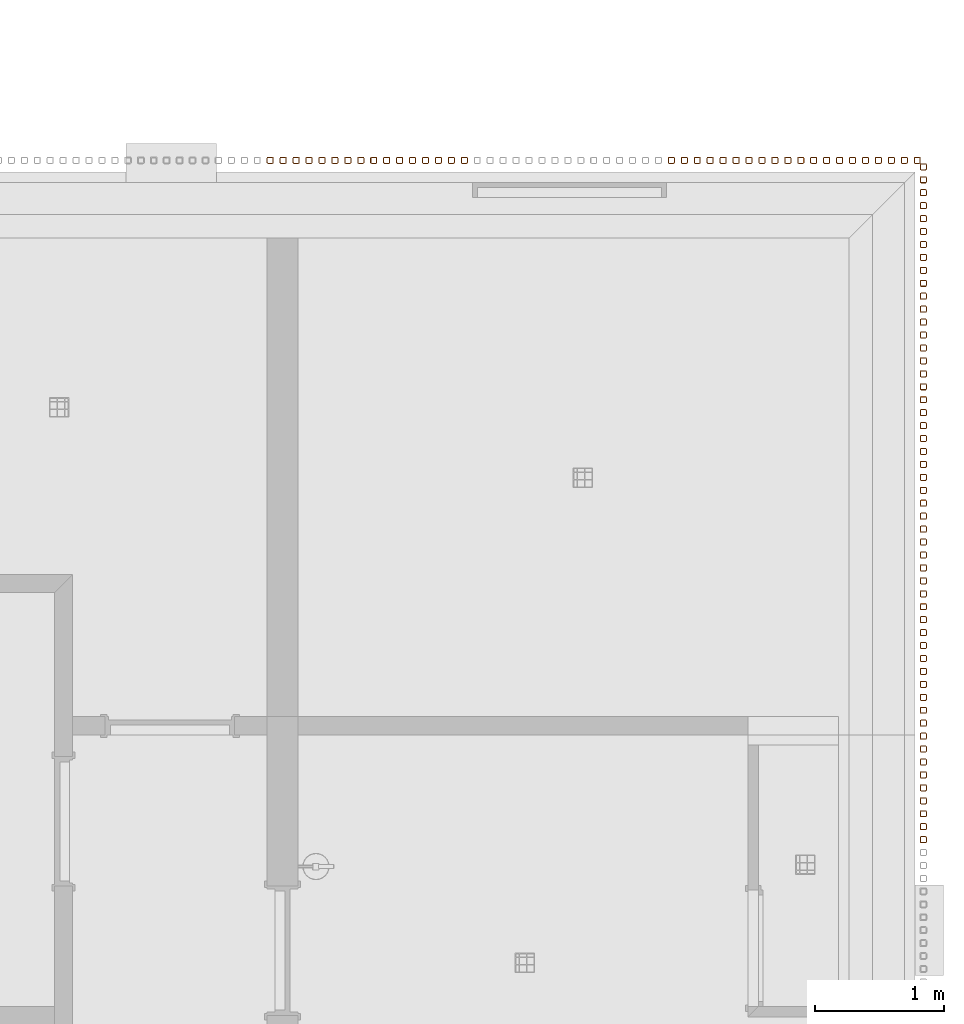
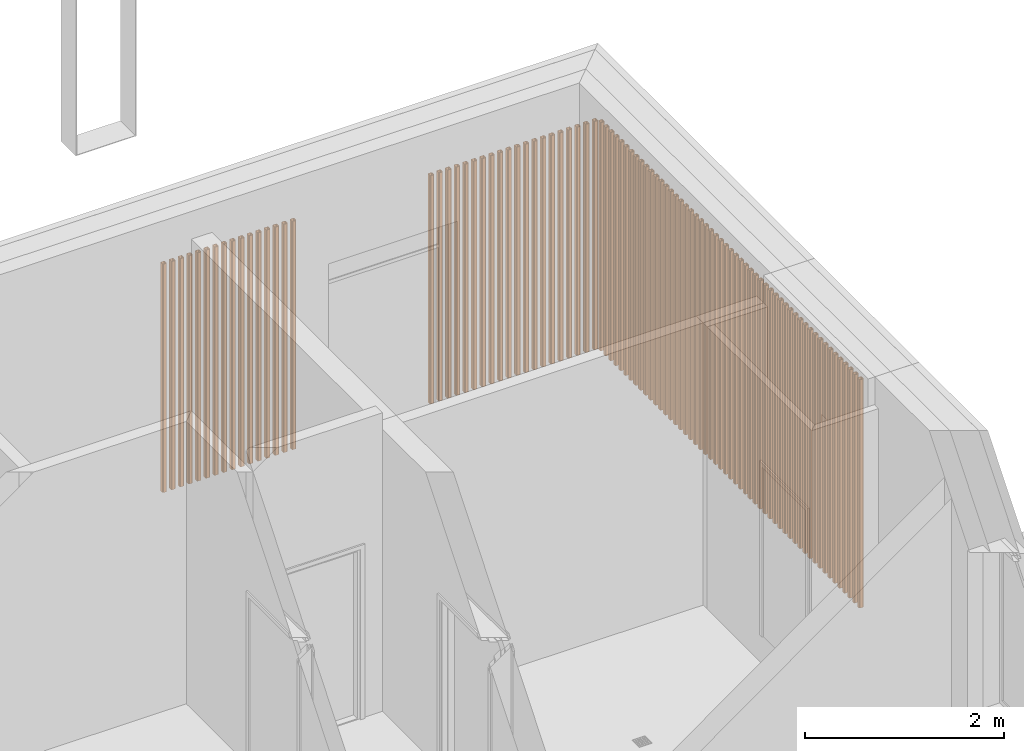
# One storey, part 82 of 112: 89 proxies.
"""IFC2X3 building model written with IfcOpenShell, lengths in millimetres."""

from ifc_helpers import new_model, entity, si_unit, converted_unit, derived_unit, money_unit, direction, frame, origin_with_axes, place, context, subcontext, project, spatial, faceted_brep, source, transform, mapped, material, type_object, element, save


model = new_model("IFC2X3")

# Units and contexts
model_context = context("Model", 3, precision=0.01, world=origin_with_axes(), true_north=direction((0.0, 1.0)))
body_context = subcontext(model_context, "Body", "Model", "MODEL_VIEW")
ifc_project = project(units=[si_unit("LENGTHUNIT", "METRE", prefix="MILLI"), si_unit("AREAUNIT", "SQUARE_METRE"), si_unit("VOLUMEUNIT", "CUBIC_METRE"), converted_unit("PLANEANGLEUNIT", "DEGREE", entity("IfcPlaneAngleMeasure", 0.0174532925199), si_unit("PLANEANGLEUNIT", "RADIAN"), dimensions=[0, 0, 0, 0, 0, 0, 0]), si_unit("SOLIDANGLEUNIT", "STERADIAN"), money_unit("EUR"), converted_unit("TIMEUNIT", "Year", entity("IfcTimeMeasure", 31556926.0), si_unit("TIMEUNIT", "SECOND"), dimensions=[0, 0, 1, 0, 0, 0, 0]), si_unit("MASSUNIT", "GRAM", prefix="KILO"), si_unit("THERMODYNAMICTEMPERATUREUNIT", "DEGREE_CELSIUS"), si_unit("LUMINOUSINTENSITYUNIT", "LUMEN"), si_unit("ENERGYUNIT", "JOULE", prefix="MEGA"), derived_unit("THERMALCONDUCTANCEUNIT", [(si_unit("POWERUNIT", "WATT"), 1), (si_unit("LENGTHUNIT", "METRE"), -1), (si_unit("THERMODYNAMICTEMPERATUREUNIT", "KELVIN"), -1)]), derived_unit("SPECIFICHEATCAPACITYUNIT", [(si_unit("ENERGYUNIT", "JOULE"), 1), (si_unit("MASSUNIT", "GRAM", prefix="KILO"), -1), (si_unit("THERMODYNAMICTEMPERATUREUNIT", "KELVIN"), -1)]), derived_unit("MASSDENSITYUNIT", [(si_unit("MASSUNIT", "GRAM", prefix="KILO"), 1), (si_unit("VOLUMEUNIT", "CUBIC_METRE"), -1)])], contexts=[model_context])

# Site, building, storey
site_placement = place(None, origin_with_axes())
site = spatial("IfcSite", under=ifc_project, at=site_placement, Name="Politse- ja Piirivalveameti ning Päästeameti ühishoone", CompositionType="ELEMENT")
building_placement = place(site_placement, origin_with_axes())
building = spatial("IfcBuilding", under=site, at=building_placement, Name="Politse- ja Piirivalveameti ning Päästeameti ühishoone", CompositionType="ELEMENT")
storey_placement = place(building_placement, origin_with_axes())
storey = spatial("IfcBuildingStorey", under=building, at=storey_placement, Name="Esimene korrus", CompositionType="ELEMENT", Elevation=0.0)

# Proxies
ifc_material = material(Name="ET-05_Teras")
building_element_proxy_type = type_object("IfcBuildingElementProxyType", Name="SHS Cold-Formed Column 23", PredefinedType="NOTDEFINED")
shared_shape_1 = source(origin_with_axes(), body_context, "Body", "Brep", [
    faceted_brep([(-17.0, -25.0, 0.0), (17.0, -25.0, 0.0), (17.0, -25.0, 2800.0), (-17.0, -25.0, 2800.0), (-22.6568542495, -22.6568542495, 0.0), (-25.0, -17.0, 0.0), (-25.0, 17.0, 0.0), (-22.6568542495, 22.6568542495, 0.0), (-17.0, 25.0, 0.0), (17.0, 25.0, 0.0), (22.6568542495, 22.6568542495, 0.0), (25.0, 17.0, 0.0), (25.0, -17.0, 0.0), (22.6568542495, -22.6568542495, 0.0), (-17.0, -21.0, 0.0), (17.0, -21.0, 0.0), (19.8284271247, -19.8284271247, 0.0), (21.0, -17.0, 0.0), (21.0, 17.0, 0.0), (19.8284271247, 19.8284271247, 0.0), (17.0, 21.0, 0.0), (-17.0, 21.0, 0.0), (-19.8284271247, 19.8284271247, 0.0), (-21.0, 17.0, 0.0), (-21.0, -17.0, 0.0), (-19.8284271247, -19.8284271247, 0.0), (22.6568542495, -22.6568542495, 2800.0), (25.0, -17.0, 2800.0), (25.0, 17.0, 2800.0), (22.6568542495, 22.6568542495, 2800.0), (17.0, 25.0, 2800.0), (-17.0, 25.0, 2800.0), (-22.6568542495, 22.6568542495, 2800.0), (-25.0, 17.0, 2800.0), (-25.0, -17.0, 2800.0), (-22.6568542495, -22.6568542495, 2800.0), (-17.0, -21.0, 2800.0), (-19.8284271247, -19.8284271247, 2800.0), (-21.0, -17.0, 2800.0), (-21.0, 17.0, 2800.0), (-19.8284271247, 19.8284271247, 2800.0), (-17.0, 21.0, 2800.0), (17.0, 21.0, 2800.0), (19.8284271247, 19.8284271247, 2800.0), (21.0, 17.0, 2800.0), (21.0, -17.0, 2800.0), (19.8284271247, -19.8284271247, 2800.0), (17.0, -21.0, 2800.0)], [[[0, 1, 2, 3]], [[0, 4, 5, 6, 7, 8, 9, 10, 11, 12, 13, 1], [14, 15, 16, 17, 18, 19, 20, 21, 22, 23, 24, 25]], [[1, 13, 26, 2]], [[3, 2, 26, 27, 28, 29, 30, 31, 32, 33, 34, 35], [36, 37, 38, 39, 40, 41, 42, 43, 44, 45, 46, 47]], [[4, 0, 3, 35]], [[5, 4, 35, 34]], [[6, 5, 34, 33]], [[7, 6, 33, 32]], [[8, 7, 32, 31]], [[9, 8, 31, 30]], [[10, 9, 30, 29]], [[11, 10, 29, 28]], [[12, 11, 28, 27]], [[13, 12, 27, 26]], [[15, 14, 36, 47]], [[16, 15, 47, 46]], [[17, 16, 46, 45]], [[18, 17, 45, 44]], [[19, 18, 44, 43]], [[20, 19, 43, 42]], [[21, 20, 42, 41]], [[22, 21, 41, 40]], [[23, 22, 40, 39]], [[24, 23, 39, 38]], [[25, 24, 38, 37]], [[14, 25, 37, 36]]]),
])
for number, where, z_axis, x_axis in (
    (1, (70235.2095212, 32850.0702441, 0.0), (0.0, 0.0, 1.0), (1.0, 0.0, 0.0)),
    (2, (70235.2095212, 32950.0702441, 0.0), (0.0, 0.0, 1.0), (1.0, 0.0, 0.0)),
    (3, (70235.2095212, 33050.0702441, 0.0), (0.0, 0.0, 1.0), (1.0, 0.0, 0.0)),
    (4, (70235.2095212, 33150.0702441, 0.0), (0.0, 0.0, 1.0), (1.0, 0.0, 0.0)),
    (5, (70235.2095212, 33250.0702441, 0.0), (0.0, 0.0, 1.0), (1.0, 0.0, 0.0)),
    (6, (70235.2095212, 33350.0702441, 0.0), (0.0, 0.0, 1.0), (1.0, 0.0, 0.0)),
    (7, (70235.2095212, 33450.0702441, 0.0), (0.0, 0.0, 1.0), (1.0, 0.0, 0.0)),
    (8, (70235.2095212, 33550.0702441, 0.0), (0.0, 0.0, 1.0), (1.0, 0.0, 0.0)),
    (9, (70235.2095212, 33650.0702441, 0.0), (0.0, 0.0, 1.0), (1.0, 0.0, 0.0)),
    (10, (70235.2095212, 33750.0702441, 0.0), (0.0, 0.0, 1.0), (1.0, 0.0, 0.0)),
    (11, (70235.2095212, 33850.0702441, 0.0), (0.0, 0.0, 1.0), (1.0, 0.0, 0.0)),
    (12, (70235.2095212, 33950.0702441, 0.0), (0.0, 0.0, 1.0), (1.0, 0.0, 0.0)),
    (13, (70235.2095212, 34050.0702441, 0.0), (0.0, 0.0, 1.0), (1.0, 0.0, 0.0)),
    (14, (70235.2095212, 34150.0702441, 0.0), (0.0, 0.0, 1.0), (1.0, 0.0, 0.0)),
    (15, (70235.2095212, 34250.0702441, 0.0), (0.0, 0.0, 1.0), (1.0, 0.0, 0.0)),
    (16, (70235.2095212, 34350.0702441, 0.0), (0.0, 0.0, 1.0), (1.0, 0.0, 0.0)),
    (17, (70235.2095212, 34450.0702441, 0.0), (0.0, 0.0, 1.0), (1.0, 0.0, 0.0)),
    (18, (70235.2095212, 34550.0702441, 0.0), (0.0, 0.0, 1.0), (1.0, 0.0, 0.0)),
    (19, (70235.2095212, 34650.0702441, 0.0), (0.0, 0.0, 1.0), (1.0, 0.0, 0.0)),
    (20, (70235.2095212, 34750.0702441, 0.0), (0.0, 0.0, 1.0), (1.0, 0.0, 0.0)),
    (21, (70235.2095212, 34850.0702441, 0.0), (0.0, 0.0, 1.0), (1.0, 0.0, 0.0)),
    (22, (70235.2095212, 34950.0702441, 0.0), (0.0, 0.0, 1.0), (1.0, 0.0, 0.0)),
    (23, (70235.2095212, 35050.0702441, 0.0), (0.0, 0.0, 1.0), (1.0, 0.0, 0.0)),
    (24, (70235.2095212, 35150.0702441, 0.0), (0.0, 0.0, 1.0), (1.0, 0.0, 0.0)),
    (25, (70235.2095212, 35250.0702441, 0.0), (0.0, 0.0, 1.0), (1.0, 0.0, 0.0)),
    (26, (70235.2095212, 35350.0702441, 0.0), (0.0, 0.0, 1.0), (1.0, 0.0, 0.0)),
    (27, (70235.2095212, 35450.0702441, 0.0), (0.0, 0.0, 1.0), (1.0, 0.0, 0.0)),
    (28, (70235.2095212, 35550.0702441, 0.0), (0.0, 0.0, 1.0), (1.0, 0.0, 0.0)),
    (29, (70235.2095212, 35650.0702441, 0.0), (0.0, 0.0, 1.0), (1.0, 0.0, 0.0)),
    (30, (70235.2095212, 35750.0702441, 0.0), (0.0, 0.0, 1.0), (1.0, 0.0, 0.0)),
    (31, (70235.2095212, 35850.0702441, 0.0), (0.0, 0.0, 1.0), (1.0, 0.0, 0.0)),
    (32, (70235.2095212, 35950.0702441, 0.0), (0.0, 0.0, 1.0), (1.0, 0.0, 0.0)),
    (33, (70235.2095212, 36050.0702441, 0.0), (0.0, 0.0, 1.0), (1.0, 0.0, 0.0)),
    (34, (70235.2095212, 36150.0702441, 0.0), (0.0, 0.0, 1.0), (1.0, 0.0, 0.0)),
    (35, (70235.2095212, 36250.0702441, 0.0), (0.0, 0.0, 1.0), (1.0, 0.0, 0.0)),
    (36, (70235.2095212, 36350.0702441, 0.0), (0.0, 0.0, 1.0), (1.0, 0.0, 0.0)),
    (37, (70235.2095212, 36450.0702441, 0.0), (0.0, 0.0, 1.0), (1.0, 0.0, 0.0)),
    (38, (70235.2095212, 36550.0702441, 0.0), (0.0, 0.0, 1.0), (1.0, 0.0, 0.0)),
    (39, (70235.2095212, 36650.0702441, 0.0), (0.0, 0.0, 1.0), (1.0, 0.0, 0.0)),
    (40, (70235.2095212, 36750.0702441, 0.0), (0.0, 0.0, 1.0), (1.0, 0.0, 0.0)),
    (41, (70235.2095212, 36850.0702441, 0.0), (0.0, 0.0, 1.0), (1.0, 0.0, 0.0)),
    (42, (70235.2095212, 36950.0702441, 0.0), (0.0, 0.0, 1.0), (1.0, 0.0, 0.0)),
    (43, (70235.2095212, 37050.0702441, 0.0), (0.0, 0.0, 1.0), (1.0, 0.0, 0.0)),
    (44, (70235.2095212, 37150.0702441, 0.0), (0.0, 0.0, 1.0), (1.0, 0.0, 0.0)),
    (45, (70235.2095212, 37250.0702441, 0.0), (0.0, 0.0, 1.0), (1.0, 0.0, 0.0)),
    (46, (70235.2095212, 37350.0702441, 0.0), (0.0, 0.0, 1.0), (1.0, 0.0, 0.0)),
    (47, (70235.2095212, 37450.0702441, 0.0), (0.0, 0.0, 1.0), (1.0, 0.0, 0.0)),
    (48, (70235.2095212, 37550.0702441, 0.0), (0.0, 0.0, 1.0), (1.0, 0.0, 0.0)),
    (49, (70235.2095212, 37650.0702441, 0.0), (0.0, 0.0, 1.0), (1.0, 0.0, 0.0)),
    (50, (70235.2095212, 37750.0702441, 0.0), (0.0, 0.0, 1.0), (1.0, 0.0, 0.0)),
    (51, (70235.2095212, 37850.0702441, 0.0), (0.0, 0.0, 1.0), (1.0, 0.0, 0.0)),
    (52, (70235.2095212, 37950.0702441, 0.0), (0.0, 0.0, 1.0), (1.0, 0.0, 0.0)),
    (53, (70235.2095212, 38050.0702441, 0.0), (0.0, 0.0, 1.0), (1.0, 0.0, 0.0)),
):
    element("IfcBuildingElementProxy", number, at=place(storey_placement, frame(where, z_axis=z_axis, x_axis=x_axis)), inside=storey, type_object=building_element_proxy_type, material=ifc_material, Name="Fassaadiribid", context=body_context, shape_type="MappedRepresentation", body=[
        mapped(shared_shape_1, transform((0.0, 0.0, 0.0))),
    ])
shared_shape_2 = source(origin_with_axes(), body_context, "Body", "Brep", [
    faceted_brep([(17.0, -25.0, 0.0), (17.0, -25.0, 2800.0), (-17.0, -25.0, 2800.0), (-17.0, -25.0, 0.0), (22.6568542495, -22.6568542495, 0.0), (22.6568542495, -22.6568542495, 2800.0), (25.0, -17.0, 2800.0), (25.0, 17.0, 2800.0), (22.6568542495, 22.6568542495, 2800.0), (17.0, 25.0, 2800.0), (-17.0, 25.0, 2800.0), (-22.6568542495, 22.6568542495, 2800.0), (-25.0, 17.0, 2800.0), (-25.0, -17.0, 2800.0), (-22.6568542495, -22.6568542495, 2800.0), (17.0, -21.0, 2800.0), (-17.0, -21.0, 2800.0), (-19.8284271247, -19.8284271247, 2800.0), (-21.0, -17.0, 2800.0), (-21.0, 17.0, 2800.0), (-19.8284271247, 19.8284271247, 2800.0), (-17.0, 21.0, 2800.0), (17.0, 21.0, 2800.0), (19.8284271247, 19.8284271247, 2800.0), (21.0, 17.0, 2800.0), (21.0, -17.0, 2800.0), (19.8284271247, -19.8284271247, 2800.0), (-22.6568542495, -22.6568542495, 0.0), (-25.0, -17.0, 0.0), (-25.0, 17.0, 0.0), (-22.6568542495, 22.6568542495, 0.0), (-17.0, 25.0, 0.0), (17.0, 25.0, 0.0), (22.6568542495, 22.6568542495, 0.0), (25.0, 17.0, 0.0), (25.0, -17.0, 0.0), (17.0, -21.0, 0.0), (19.8284271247, -19.8284271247, 0.0), (21.0, -17.0, 0.0), (21.0, 17.0, 0.0), (19.8284271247, 19.8284271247, 0.0), (17.0, 21.0, 0.0), (-17.0, 21.0, 0.0), (-19.8284271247, 19.8284271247, 0.0), (-21.0, 17.0, 0.0), (-21.0, -17.0, 0.0), (-19.8284271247, -19.8284271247, 0.0), (-17.0, -21.0, 0.0)], [[[0, 1, 2, 3]], [[4, 5, 1, 0]], [[1, 5, 6, 7, 8, 9, 10, 11, 12, 13, 14, 2], [15, 16, 17, 18, 19, 20, 21, 22, 23, 24, 25, 26]], [[3, 2, 14, 27]], [[0, 3, 27, 28, 29, 30, 31, 32, 33, 34, 35, 4], [36, 37, 38, 39, 40, 41, 42, 43, 44, 45, 46, 47]], [[35, 6, 5, 4]], [[34, 7, 6, 35]], [[33, 8, 7, 34]], [[32, 9, 8, 33]], [[31, 10, 9, 32]], [[30, 11, 10, 31]], [[29, 12, 11, 30]], [[28, 13, 12, 29]], [[27, 14, 13, 28]], [[47, 16, 15, 36]], [[46, 17, 16, 47]], [[45, 18, 17, 46]], [[44, 19, 18, 45]], [[43, 20, 19, 44]], [[42, 21, 20, 43]], [[41, 22, 21, 42]], [[40, 23, 22, 41]], [[39, 24, 23, 40]], [[38, 25, 24, 39]], [[37, 26, 25, 38]], [[36, 15, 26, 37]]]),
])
for number, where, z_axis, x_axis in (
    (54, (70187.7152411, 38099.9520832, 0.0), (0.0, 0.0, 1.0), (0.0, -1.0, 0.0)),
    (55, (65186.7935958, 38099.9520832, 0.0), (0.0, 0.0, 1.0), (0.0, -1.0, 0.0)),
    (56, (65286.8120287, 38099.9520832, 0.0), (0.0, 0.0, 1.0), (0.0, -1.0, 0.0)),
    (57, (65386.8304616, 38099.9520832, 0.0), (0.0, 0.0, 1.0), (0.0, -1.0, 0.0)),
    (58, (65486.8488945, 38099.9520832, 0.0), (0.0, 0.0, 1.0), (0.0, -1.0, 0.0)),
    (59, (65586.8673274, 38099.9520832, 0.0), (0.0, 0.0, 1.0), (0.0, -1.0, 0.0)),
    (60, (65686.8857603, 38099.9520832, 0.0), (0.0, 0.0, 1.0), (0.0, -1.0, 0.0)),
    (61, (65786.9041933, 38099.9520832, 0.0), (0.0, 0.0, 1.0), (0.0, -1.0, 0.0)),
    (62, (65886.9226262, 38099.9520832, 0.0), (0.0, 0.0, 1.0), (0.0, -1.0, 0.0)),
    (63, (65986.9410591, 38099.9520832, 0.0), (0.0, 0.0, 1.0), (0.0, -1.0, 0.0)),
    (64, (66086.959492, 38099.9520832, 0.0), (0.0, 0.0, 1.0), (0.0, -1.0, 0.0)),
    (65, (66186.9779249, 38099.9520832, 0.0), (0.0, 0.0, 1.0), (0.0, -1.0, 0.0)),
    (66, (66286.9963578, 38099.9520832, 0.0), (0.0, 0.0, 1.0), (0.0, -1.0, 0.0)),
    (67, (66387.0147907, 38099.9520832, 0.0), (0.0, 0.0, 1.0), (0.0, -1.0, 0.0)),
    (68, (66487.0332236, 38099.9520832, 0.0), (0.0, 0.0, 1.0), (0.0, -1.0, 0.0)),
    (69, (66587.0516565, 38099.9520832, 0.0), (0.0, 0.0, 1.0), (0.0, -1.0, 0.0)),
    (70, (66687.0700894, 38099.9520832, 0.0), (0.0, 0.0, 1.0), (0.0, -1.0, 0.0)),
    (71, (68287.3650159, 38099.9520832, 0.0), (0.0, 0.0, 1.0), (0.0, -1.0, 0.0)),
    (72, (68387.3834488, 38099.9520832, 0.0), (0.0, 0.0, 1.0), (0.0, -1.0, 0.0)),
    (73, (68487.4018817, 38099.9520832, 0.0), (0.0, 0.0, 1.0), (0.0, -1.0, 0.0)),
    (74, (68587.4203146, 38099.9520832, 0.0), (0.0, 0.0, 1.0), (0.0, -1.0, 0.0)),
    (75, (68687.4387475, 38099.9520832, 0.0), (0.0, 0.0, 1.0), (0.0, -1.0, 0.0)),
    (76, (68787.4571804, 38099.9520832, 0.0), (0.0, 0.0, 1.0), (0.0, -1.0, 0.0)),
    (77, (68887.4756133, 38099.9520832, 0.0), (0.0, 0.0, 1.0), (0.0, -1.0, 0.0)),
    (78, (68987.4940462, 38099.9520832, 0.0), (0.0, 0.0, 1.0), (0.0, -1.0, 0.0)),
    (79, (69087.5124791, 38099.9520832, 0.0), (0.0, 0.0, 1.0), (0.0, -1.0, 0.0)),
    (80, (69187.530912, 38099.9520832, 0.0), (0.0, 0.0, 1.0), (0.0, -1.0, 0.0)),
    (81, (69287.549345, 38099.9520832, 0.0), (0.0, 0.0, 1.0), (0.0, -1.0, 0.0)),
    (82, (69387.5677779, 38099.9520832, 0.0), (0.0, 0.0, 1.0), (0.0, -1.0, 0.0)),
    (83, (69487.5862108, 38099.9520832, 0.0), (0.0, 0.0, 1.0), (0.0, -1.0, 0.0)),
    (84, (69587.6046437, 38099.9520832, 0.0), (0.0, 0.0, 1.0), (0.0, -1.0, 0.0)),
    (85, (69687.6230766, 38099.9520832, 0.0), (0.0, 0.0, 1.0), (0.0, -1.0, 0.0)),
    (86, (69787.6415095, 38099.9520832, 0.0), (0.0, 0.0, 1.0), (0.0, -1.0, 0.0)),
    (87, (69887.6599424, 38099.9520832, 0.0), (0.0, 0.0, 1.0), (0.0, -1.0, 0.0)),
    (88, (69987.6783753, 38099.9520832, 0.0), (0.0, 0.0, 1.0), (0.0, -1.0, 0.0)),
    (89, (70087.6968082, 38099.9520832, 0.0), (0.0, 0.0, 1.0), (0.0, -1.0, 0.0)),
):
    element("IfcBuildingElementProxy", number, at=place(storey_placement, frame(where, z_axis=z_axis, x_axis=x_axis)), inside=storey, type_object=building_element_proxy_type, material=ifc_material, Name="Fassaadiribid", context=body_context, shape_type="MappedRepresentation", body=[
        mapped(shared_shape_2, transform((0.0, 0.0, 0.0))),
    ])

save(model, "model.ifc")
